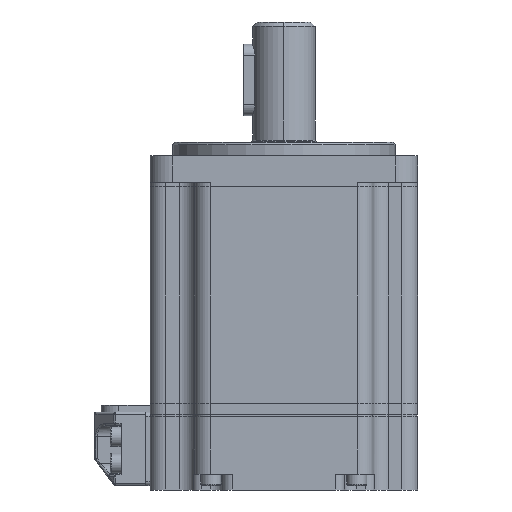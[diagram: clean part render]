
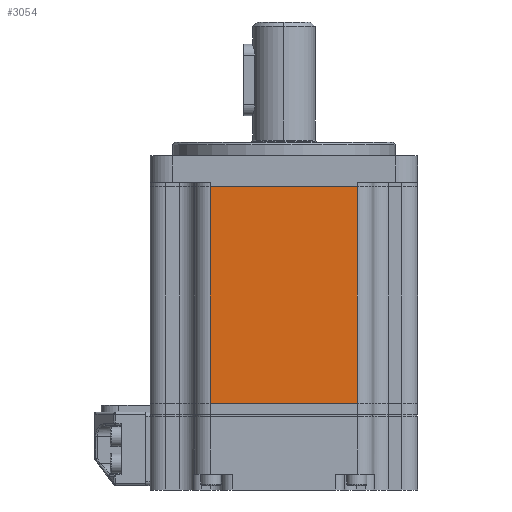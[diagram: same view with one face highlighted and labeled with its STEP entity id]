
A CAD part, front view. The second image highlights one B-rep face of the part: STEP entity #3054.
In plain terms, the highlighted planar face has unit normal (0, -1, 0).
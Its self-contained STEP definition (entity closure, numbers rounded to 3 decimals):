
#921 = VECTOR ( 'NONE', #41356, 1000. ) ;
#1997 = CARTESIAN_POINT ( 'NONE',  ( 16.5, -30., -1. ) ) ;
#3054 = ADVANCED_FACE ( 'NONE', ( #18356 ), #17345, .F. ) ;
#4578 = DIRECTION ( 'NONE',  ( 0., 0., 1. ) ) ;
#4781 = VERTEX_POINT ( 'NONE', #5124 ) ;
#5124 = CARTESIAN_POINT ( 'NONE',  ( 16.5, -30., -49.5 ) ) ;
#5386 = DIRECTION ( 'NONE',  ( -1., 0., 0. ) ) ;
#5799 = EDGE_CURVE ( 'NONE', #26649, #31690, #14705, .T. ) ;
#6077 = EDGE_LOOP ( 'NONE', ( #18529, #37151, #9209, #34381 ) ) ;
#7105 = CARTESIAN_POINT ( 'NONE',  ( -16.5, -30., -1. ) ) ;
#7301 = VECTOR ( 'NONE', #5386, 1000. ) ;
#8679 = EDGE_CURVE ( 'NONE', #4781, #27648, #37409, .T. ) ;
#9209 = ORIENTED_EDGE ( 'NONE', *, *, #37071, .T. ) ;
#11694 = CARTESIAN_POINT ( 'NONE',  ( 20., -30., -49.5 ) ) ;
#11936 = VECTOR ( 'NONE', #14988, 1000. ) ;
#13526 = EDGE_CURVE ( 'NONE', #4781, #31690, #15843, .T. ) ;
#13661 = AXIS2_PLACEMENT_3D ( 'NONE', #39623, #23790, #4578 ) ;
#14705 = LINE ( 'NONE', #19880, #22217 ) ;
#14988 = DIRECTION ( 'NONE',  ( 0., 0., 1. ) ) ;
#15843 = LINE ( 'NONE', #11694, #7301 ) ;
#15883 = CARTESIAN_POINT ( 'NONE',  ( 20., -30., -1. ) ) ;
#17345 = PLANE ( 'NONE',  #13661 ) ;
#18356 = FACE_OUTER_BOUND ( 'NONE', #6077, .T. ) ;
#18529 = ORIENTED_EDGE ( 'NONE', *, *, #13526, .F. ) ;
#19880 = CARTESIAN_POINT ( 'NONE',  ( -16.5, -30., -49.5 ) ) ;
#21420 = CARTESIAN_POINT ( 'NONE',  ( 16.5, -30., -49.5 ) ) ;
#22217 = VECTOR ( 'NONE', #38801, 1000. ) ;
#23790 = DIRECTION ( 'NONE',  ( 0., 1., 0. ) ) ;
#26649 = VERTEX_POINT ( 'NONE', #7105 ) ;
#27648 = VERTEX_POINT ( 'NONE', #1997 ) ;
#31690 = VERTEX_POINT ( 'NONE', #33202 ) ;
#33202 = CARTESIAN_POINT ( 'NONE',  ( -16.5, -30., -49.5 ) ) ;
#34381 = ORIENTED_EDGE ( 'NONE', *, *, #5799, .T. ) ;
#36934 = LINE ( 'NONE', #15883, #921 ) ;
#37071 = EDGE_CURVE ( 'NONE', #27648, #26649, #36934, .T. ) ;
#37151 = ORIENTED_EDGE ( 'NONE', *, *, #8679, .T. ) ;
#37409 = LINE ( 'NONE', #21420, #11936 ) ;
#38801 = DIRECTION ( 'NONE',  ( 0., 0., -1. ) ) ;
#39623 = CARTESIAN_POINT ( 'NONE',  ( 20., -30., -49.5 ) ) ;
#41356 = DIRECTION ( 'NONE',  ( -1., 0., 0. ) ) ;
